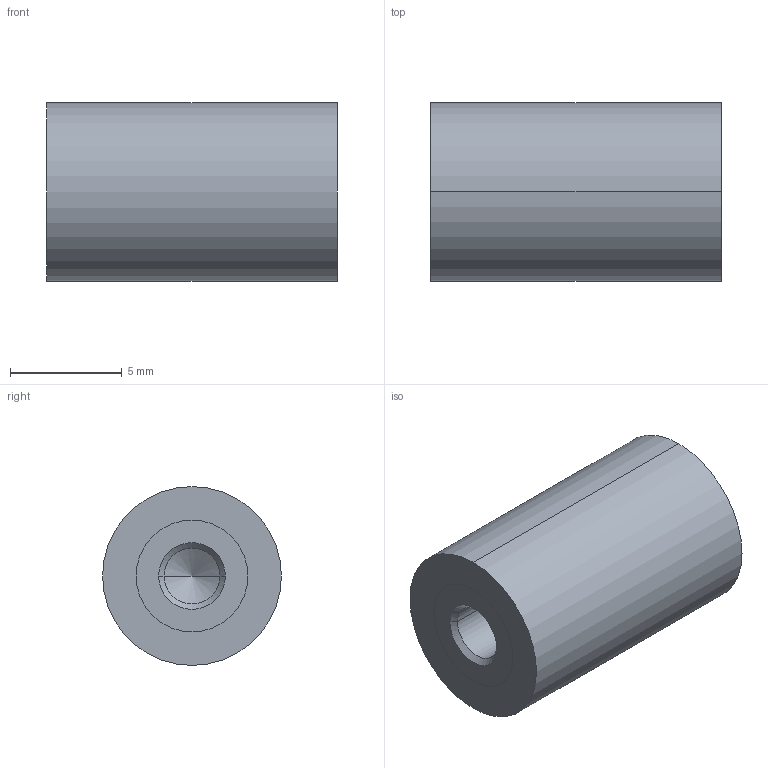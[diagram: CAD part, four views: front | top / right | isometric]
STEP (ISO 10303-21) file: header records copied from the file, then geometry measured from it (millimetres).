
FILE_DESCRIPTION (( 'STEP AP214' ), '1' );
FILE_NAME ('451-8-13-M3-EE-40.step', '2020-03-05T09:15:34', ( '' ), ( '' ), 'SwSTEP 2.0', 'SolidWorks 2019', '' );
FILE_SCHEMA (( 'AUTOMOTIVE_DESIGN' ));
Length unit declared in the file: millimetre
Products named in the file (1): 451-8-13-M3-EE-40
Bounding box: 13 x 8 x 8 mm (x, y, z)
Volume: 620.8 mm3; surface area: 474.1 mm2
Topology: 1 solids, 1 shells, 22 faces, 46 edges, 26 vertices
Faces by surface type: cylinder 10, cone 8, plane 4
Entity records: 684 total; most frequent: DIRECTION 112, CARTESIAN_POINT 91, ORIENTED_EDGE 84, AXIS2_PLACEMENT_3D 47, EDGE_CURVE 42, VERTEX_POINT 26, EDGE_LOOP 26, CIRCLE 24
